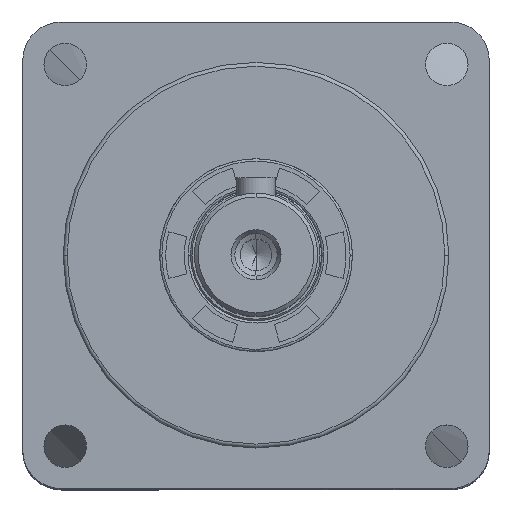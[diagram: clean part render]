
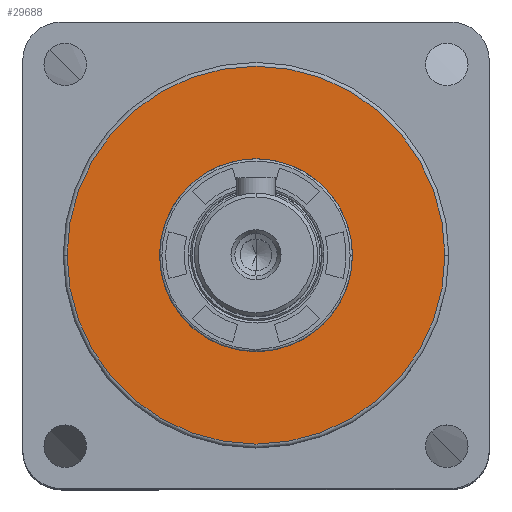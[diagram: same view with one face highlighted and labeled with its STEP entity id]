
A CAD part, top view. The second image highlights one B-rep face of the part: STEP entity #29688.
In plain terms, the highlighted planar face has unit normal (0, 0, 1).
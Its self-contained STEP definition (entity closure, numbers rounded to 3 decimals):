
#368 = ORIENTED_EDGE ( 'NONE', *, *, #18102, .T. ) ;
#588 = DIRECTION ( 'NONE',  ( 1., 0., 0. ) ) ;
#1039 = EDGE_LOOP ( 'NONE', ( #16678, #6880 ) ) ;
#1737 = AXIS2_PLACEMENT_3D ( 'NONE', #26190, #24102, #3951 ) ;
#2094 = DIRECTION ( 'NONE',  ( 0., 0., 1. ) ) ;
#2917 = CARTESIAN_POINT ( 'NONE',  ( 24.5, 0., 21. ) ) ;
#3017 = EDGE_CURVE ( 'NONE', #27425, #18390, #13640, .T. ) ;
#3544 = DIRECTION ( 'NONE',  ( 0., 0., 1. ) ) ;
#3951 = DIRECTION ( 'NONE',  ( 1., 0., 0. ) ) ;
#6472 = AXIS2_PLACEMENT_3D ( 'NONE', #22351, #9902, #24954 ) ;
#6880 = ORIENTED_EDGE ( 'NONE', *, *, #3017, .F. ) ;
#7109 = AXIS2_PLACEMENT_3D ( 'NONE', #23166, #3544, #588 ) ;
#7464 = EDGE_CURVE ( 'NONE', #18390, #27425, #26016, .T. ) ;
#7784 = CIRCLE ( 'NONE', #11243, 24.5 ) ;
#9902 = DIRECTION ( 'NONE',  ( 0., 0., 1. ) ) ;
#11243 = AXIS2_PLACEMENT_3D ( 'NONE', #27150, #2094, #19511 ) ;
#11325 = CIRCLE ( 'NONE', #1737, 24.5 ) ;
#13640 = CIRCLE ( 'NONE', #26523, 12.5 ) ;
#16678 = ORIENTED_EDGE ( 'NONE', *, *, #7464, .F. ) ;
#18102 = EDGE_CURVE ( 'NONE', #28792, #20076, #11325, .T. ) ;
#18390 = VERTEX_POINT ( 'NONE', #26944 ) ;
#18694 = CARTESIAN_POINT ( 'NONE',  ( -12.5, 0., 21. ) ) ;
#19511 = DIRECTION ( 'NONE',  ( 1., 0., 0. ) ) ;
#20076 = VERTEX_POINT ( 'NONE', #24004 ) ;
#22351 = CARTESIAN_POINT ( 'NONE',  ( 0., 0., 21. ) ) ;
#22675 = PLANE ( 'NONE',  #6472 ) ;
#23166 = CARTESIAN_POINT ( 'NONE',  ( 0., 0., 21. ) ) ;
#23537 = DIRECTION ( 'NONE',  ( 0., 0., 1. ) ) ;
#24004 = CARTESIAN_POINT ( 'NONE',  ( -24.5, 0., 21. ) ) ;
#24102 = DIRECTION ( 'NONE',  ( 0., 0., 1. ) ) ;
#24954 = DIRECTION ( 'NONE',  ( 1., 0., 0. ) ) ;
#25703 = FACE_BOUND ( 'NONE', #1039, .T. ) ;
#26016 = CIRCLE ( 'NONE', #7109, 12.5 ) ;
#26190 = CARTESIAN_POINT ( 'NONE',  ( 0., 0., 21. ) ) ;
#26495 = FACE_OUTER_BOUND ( 'NONE', #26863, .T. ) ;
#26523 = AXIS2_PLACEMENT_3D ( 'NONE', #26811, #23537, #31251 ) ;
#26811 = CARTESIAN_POINT ( 'NONE',  ( 0., 0., 21. ) ) ;
#26863 = EDGE_LOOP ( 'NONE', ( #368, #31132 ) ) ;
#26944 = CARTESIAN_POINT ( 'NONE',  ( 12.5, 0., 21. ) ) ;
#27150 = CARTESIAN_POINT ( 'NONE',  ( 0., 0., 21. ) ) ;
#27425 = VERTEX_POINT ( 'NONE', #18694 ) ;
#28067 = EDGE_CURVE ( 'NONE', #20076, #28792, #7784, .T. ) ;
#28792 = VERTEX_POINT ( 'NONE', #2917 ) ;
#29688 = ADVANCED_FACE ( 'NONE', ( #26495, #25703 ), #22675, .T. ) ;
#31132 = ORIENTED_EDGE ( 'NONE', *, *, #28067, .T. ) ;
#31251 = DIRECTION ( 'NONE',  ( 1., 0., 0. ) ) ;
